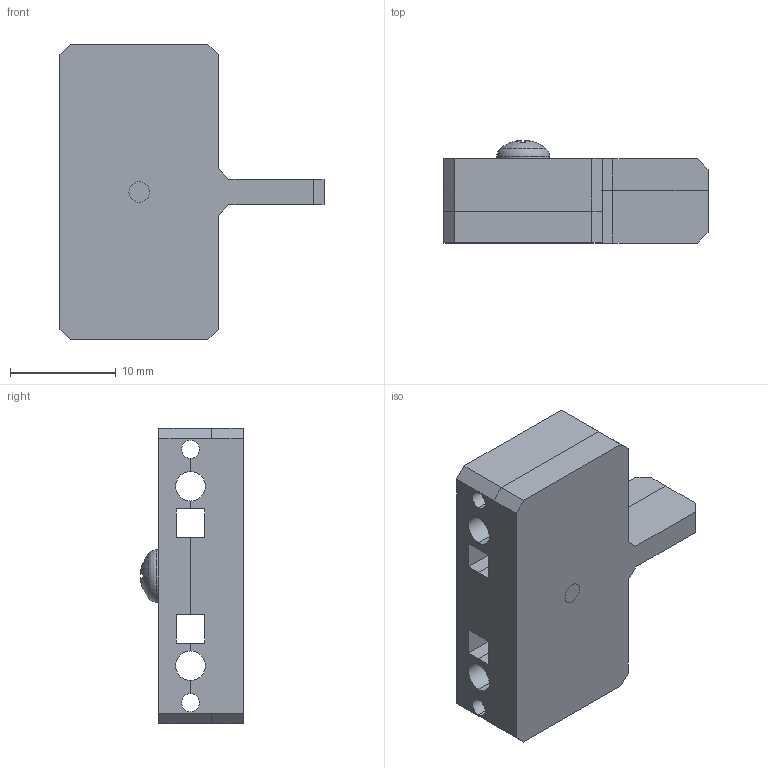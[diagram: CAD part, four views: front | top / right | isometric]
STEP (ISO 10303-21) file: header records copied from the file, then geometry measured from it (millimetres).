
FILE_DESCRIPTION(/* description */ (''),/* implementation_level */ '2;1');
FILE_NAME(/* name */ 'Assieme_blocco.stp',/* time_stamp */ '2025-12-20T14:38:37+01:00',/* author */ ('R5800u'),/* organization */ (''),/* preprocessor_version */ 'ST-DEVELOPER v20',/* originating_system */ 'Autodesk Inventor 2025',/* authorisation */ '');
FILE_SCHEMA (('AUTOMOTIVE_DESIGN { 1 0 10303 214 3 1 1 }'));
Length unit declared in the file: millimetre
Products named in the file (5): Assieme_blocco; base; top; base2; AS 1427 - M2,5 x 8
Assembly tree (4 placements, depth 2):
  Assieme_blocco
    base
    top
    base2
    AS 1427 - M2,5 x 8
Bounding box: 25 x 9.71 x 28 mm (x, y, z)
Volume: 3098.8 mm3; surface area: 3129.4 mm2
Topology: 3 solids, 3 shells, 137 faces, 367 edges, 241 vertices
Faces by surface type: plane 103, cone 16, cylinder 12, torus 5, sphere 1
Full cylindrical faces by diameter (mm): 2.224 x1, 2.4 x2, 2.5 x1
Entity records: 4674 total; most frequent: CARTESIAN_POINT 1093, ORIENTED_EDGE 732, DIRECTION 682, EDGE_CURVE 366, LINE 254, VECTOR 254, VERTEX_POINT 240, AXIS2_PLACEMENT_3D 214
